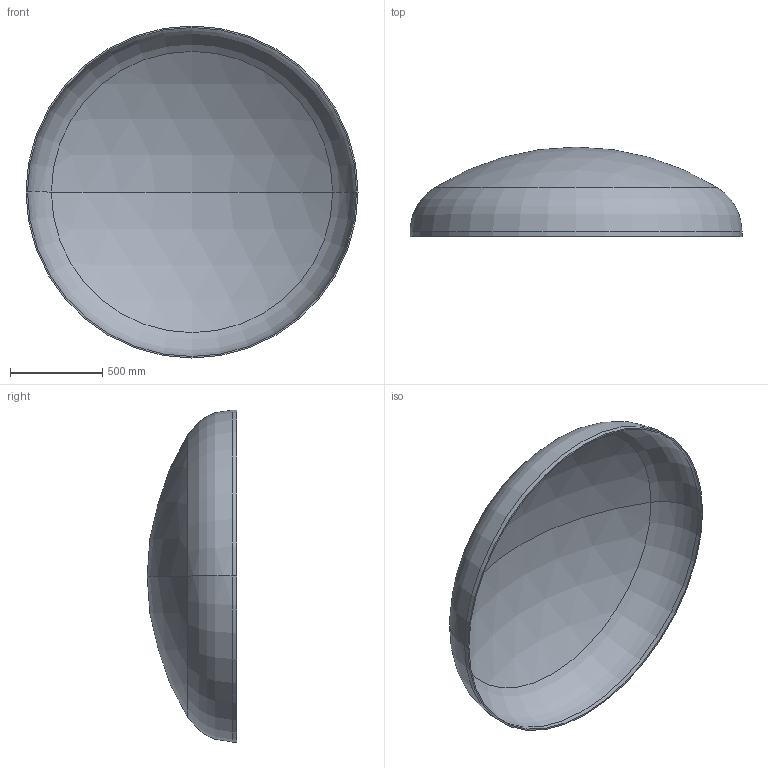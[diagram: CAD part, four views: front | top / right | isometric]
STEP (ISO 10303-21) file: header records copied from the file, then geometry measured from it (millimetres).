
FILE_DESCRIPTION (( 'STEP AP203' ), '1' );
FILE_NAME ('DIN 28013 Korbbogenform_-_Boden DIN 28013 - 1800 x 25 - I - s=8.step', '2016-07-01T12:15:28', ( '' ), ( '' ), 'SwSTEP 2.0', 'SolidWorks 2013', '' );
FILE_SCHEMA (( 'CONFIG_CONTROL_DESIGN' ));
Length unit declared in the file: millimetre
Products named in the file (1): DIN 28013 Korbbogenform_-_Boden DIN 28013 - 1800 x 25 - I - s=8
Bounding box: 1800 x 484.8 x 1800 mm (x, y, z)
Volume: 29113569.7 mm3; surface area: 7323561.4 mm2
Topology: 1 solids, 1 shells, 13 faces, 24 edges, 14 vertices
Faces by surface type: torus 4, cylinder 4, sphere 4, plane 1
Entity records: 407 total; most frequent: DIRECTION 72, CARTESIAN_POINT 52, ORIENTED_EDGE 48, AXIS2_PLACEMENT_3D 34, EDGE_CURVE 24, CIRCLE 20, VERTEX_POINT 14, EDGE_LOOP 14
